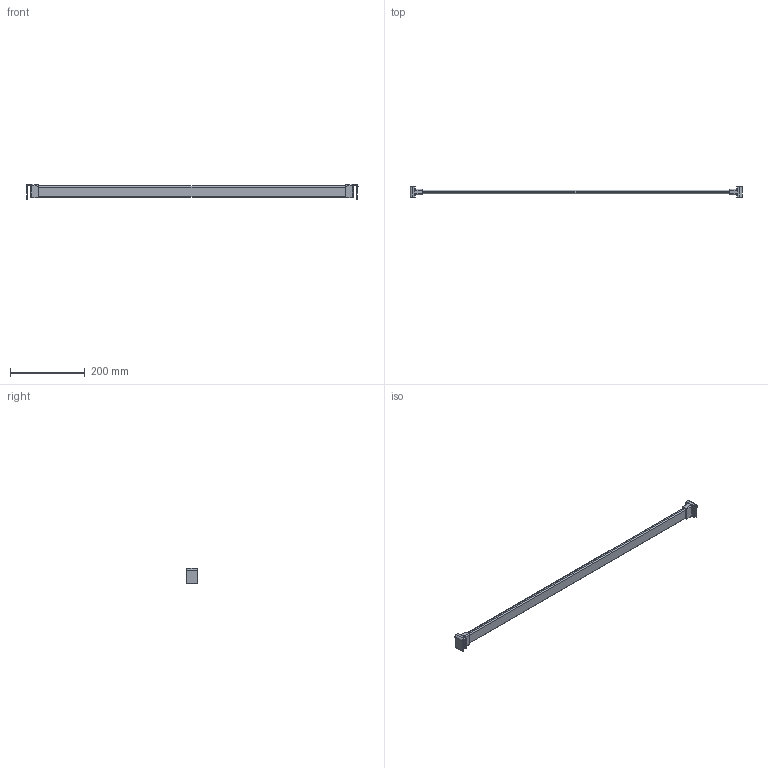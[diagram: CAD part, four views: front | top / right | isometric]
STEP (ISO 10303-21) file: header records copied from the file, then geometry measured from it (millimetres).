
FILE_DESCRIPTION (( 'STEP AP214' ), '1' );
FILE_NAME ('_Querreling_KAB-950_KS-16_P602_Glashalter.step', '2010-08-26T14:59:38', ( 'grass' ), ( '' ), 'SwSTEP 2.0', 'SolidWorks 2009', '' );
FILE_SCHEMA (( 'AUTOMOTIVE_DESIGN' ));
Length unit declared in the file: millimetre
Products named in the file (1): _Querreling_KAB-950_KS-16_P602_Glashalter
Bounding box: 890.78 x 30 x 41.5 mm (x, y, z)
Volume: 289843.4 mm3; surface area: 77627.5 mm2
Topology: 1 solids, 1 shells, 124 faces, 300 edges, 176 vertices
Faces by surface type: cylinder 58, plane 34, torus 16, bspline 12, sphere 4
Entity records: 5090 total; most frequent: CARTESIAN_POINT 2269, ORIENTED_EDGE 592, DIRECTION 590, EDGE_CURVE 296, AXIS2_PLACEMENT_3D 225, VERTEX_POINT 176, VECTOR 140, LINE 140
